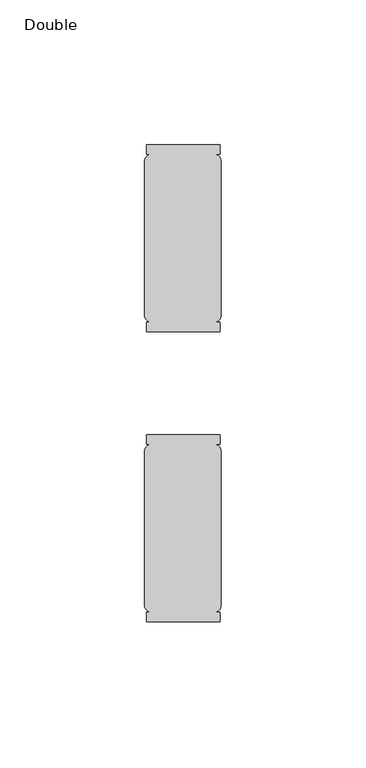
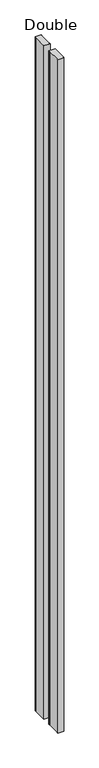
"""IFC4 building model written with IfcOpenShell, lengths in millimetres: furniture geometry, Post-Teknion-FHCPA-Vertical_Post_Package-R2022rfa : Double."""

from ifc_helpers import new_model, si_unit, point, frame, frame_2d, origin, place, context, project, spatial, polyline, circle_curve, trimmed, segment, composite_curve, outline, extrude, source, transform, mapped, element, save


def double_933e7df8(model_context):
    return source(origin(), model_context, "Body", "SweptSolid", [
        extrude(outline(composite_curve([segment(polyline([(-13.1617229, 27.4619229), (-13.1617229, 81.5040771)]), True, "CONTINUOUS"), segment(trimmed(circle_curve(frame_2d((-10.4608087, 80.7888858)), 2.794), [point((-13.1617229, 81.5040771))], [point((-11.176, 83.4898))], False, "CARTESIAN"), True, "CONTINUOUS"), segment(polyline([(-11.176, 83.4898), (-12.5772868, 83.4898), (-12.5772868, 86.6648), (12.8227132, 86.6648), (12.8227132, 83.4898), (11.176, 83.4898)]), True, "CONTINUOUS"), segment(trimmed(circle_curve(frame_2d((10.4608087, 80.7888858)), 2.794), [point((11.176, 83.4898))], [point((13.1617229, 81.5040771))], False, "CARTESIAN"), True, "CONTINUOUS"), segment(polyline([(13.1617229, 81.5040771), (13.1617229, 27.4619229)]), True, "CONTINUOUS"), segment(trimmed(circle_curve(frame_2d((10.4608087, 28.1771142)), 2.794), [point((13.1617229, 27.4619229))], [point((11.176, 25.4762))], False, "CARTESIAN"), True, "CONTINUOUS"), segment(polyline([(11.176, 25.4762), (12.8227132, 25.4762), (12.8227132, 22.3012), (-12.5772868, 22.3012), (-12.5772868, 25.4762), (-11.176, 25.4762)]), True, "CONTINUOUS"), segment(trimmed(circle_curve(frame_2d((-10.4608087, 28.1771142)), 2.794), [point((-11.176, 25.4762))], [point((-13.1617229, 27.4619229))], False, "CARTESIAN"), True, "CONTINUOUS")], self_intersect=False)), frame((0.0, 0.0, 29.718), z_axis=(0.0, 0.0, 1.0), x_axis=(1.0, 0.0, 0.0)), (0.0, 0.0, 1.0), 2958.735199),
        extrude(outline(composite_curve([segment(trimmed(circle_curve(frame_2d((-10.4608087, -19.2363142)), 2.794), [point((-13.1617229, -18.5211229))], [point((-11.176, -16.5354))], False, "CARTESIAN"), True, "CONTINUOUS"), segment(polyline([(-11.176, -16.5354), (-12.5772868, -16.5354), (-12.5772868, -13.3604), (12.8227132, -13.3604), (12.8227132, -16.5354), (11.176, -16.5354)]), True, "CONTINUOUS"), segment(trimmed(circle_curve(frame_2d((10.4608087, -19.2363142)), 2.794), [point((11.176, -16.5354))], [point((13.1617229, -18.5211229))], False, "CARTESIAN"), True, "CONTINUOUS"), segment(polyline([(13.1617229, -18.5211229), (13.1617229, -72.5632771)]), True, "CONTINUOUS"), segment(trimmed(circle_curve(frame_2d((10.4608087, -71.8480858)), 2.794), [point((13.1617229, -72.5632771))], [point((11.176, -74.549))], False, "CARTESIAN"), True, "CONTINUOUS"), segment(polyline([(11.176, -74.549), (12.8227132, -74.549), (12.8227132, -77.724), (-12.5772868, -77.724), (-12.5772868, -74.549), (-11.176, -74.549)]), True, "CONTINUOUS"), segment(trimmed(circle_curve(frame_2d((-10.4608087, -71.8480858)), 2.794), [point((-11.176, -74.549))], [point((-13.1617229, -72.5632771))], False, "CARTESIAN"), True, "CONTINUOUS"), segment(polyline([(-13.1617229, -72.5632771), (-13.1617229, -18.5211229)]), True, "CONTINUOUS")], self_intersect=False)), frame((0.0, 0.0, 29.718), z_axis=(0.0, 0.0, 1.0), x_axis=(1.0, 0.0, 0.0)), (0.0, 0.0, 1.0), 2958.735199),
    ])


if __name__ == "__main__":
    model = new_model("IFC4")
    model_context = context("Model", 3, world=origin())
    ifc_project = project(units=[si_unit("LENGTHUNIT", "METRE", prefix="MILLI")], contexts=[model_context])
    site = spatial("IfcSite", under=ifc_project)
    building = spatial("IfcBuilding", under=site)
    placement = place(None, origin())
    double_shape = double_933e7df8(model_context)
    element("IfcFurniture", 1, ObjectType="Post-Teknion-FHCPA-Vertical_Post_Package-R2022rfa : Double", at=placement, inside=building, context=model_context, shape_type="MappedRepresentation", body=[
        mapped(double_shape, transform((0.0, 0.0, 0.0), x_axis=(1.0, 0.0, 0.0), y_axis=(0.0, 1.0, 0.0), z_axis=(0.0, 0.0, 1.0))),
    ])
    save(model, "model.ifc")
